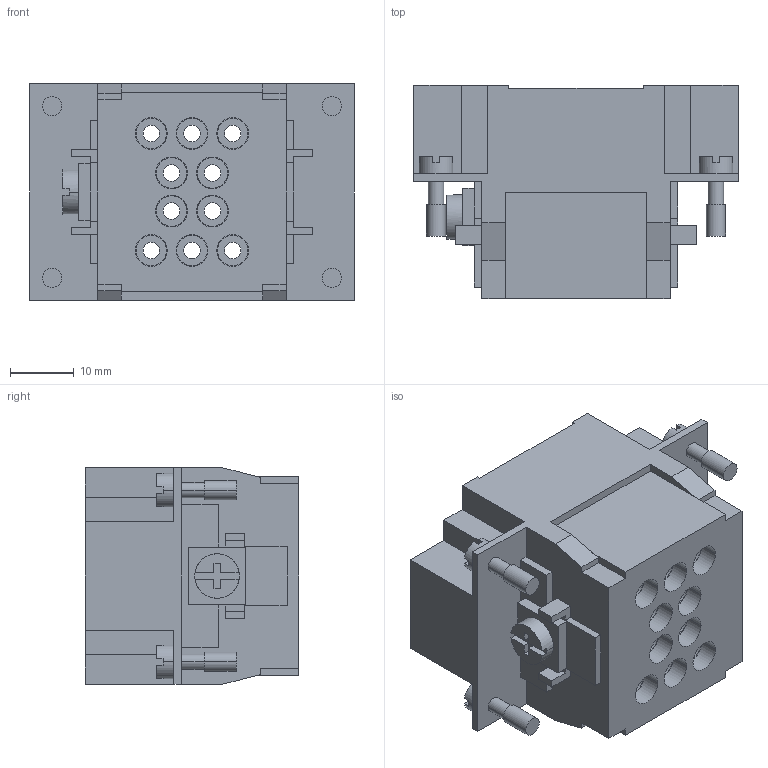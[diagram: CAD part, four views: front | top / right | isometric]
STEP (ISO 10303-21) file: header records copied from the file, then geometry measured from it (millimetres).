
FILE_DESCRIPTION (( 'STEP AP203' ), '1' );
FILE_NAME ('352234.STEP', '2025-06-26T08:32:26', ( '' ), ( '' ), 'SwSTEP 2.0', 'SolidWorks 2018', '' );
FILE_SCHEMA (( 'CONFIG_CONTROL_DESIGN' ));
Length unit declared in the file: millimetre
Products named in the file (1): 352234
Bounding box: 51 x 33.5 x 34 mm (x, y, z)
Volume: 25605 mm3; surface area: 14849 mm2
Topology: 1 solids, 1 shells, 347 faces, 896 edges, 596 vertices
Faces by surface type: plane 239, cylinder 108
Entity records: 10707 total; most frequent: DIRECTION 1844, CARTESIAN_POINT 1840, ORIENTED_EDGE 1792, EDGE_CURVE 896, VECTOR 644, LINE 644, AXIS2_PLACEMENT_3D 600, VERTEX_POINT 596
